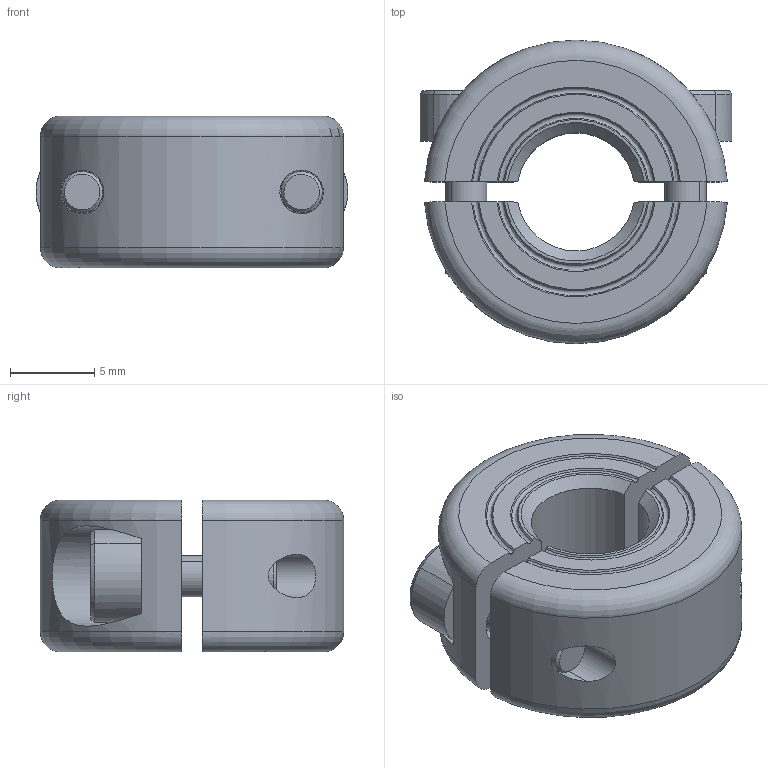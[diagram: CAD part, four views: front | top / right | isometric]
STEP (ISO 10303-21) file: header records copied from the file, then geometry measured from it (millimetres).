
FILE_DESCRIPTION((''),'2;1');
FILE_NAME('MSP-7-X','2016-09-08T',('SYSTEM'),(''),'PRO/ENGINEER BY PARAMETRIC TECHNOLOGY CORPORATION, 2015110','PRO/ENGINEER BY PARAMETRIC TECHNOLOGY CORPORATION, 2015110','');
FILE_SCHEMA(('AUTOMOTIVE_DESIGN { 1 0 10303 214 1 1 1 1 }'));
Length unit declared in the file: inch
Products named in the file (1): MSP-7-X
Bounding box: 18.49 x 18 x 9 mm (x, y, z)
Volume: 1723.8 mm3; surface area: 1649.5 mm2
Topology: 2 solids, 2 shells, 90 faces, 226 edges, 148 vertices
Faces by surface type: plane 36, cylinder 26, cone 20, torus 8
Entity records: 3663 total; most frequent: CARTESIAN_POINT 834, ORIENTED_EDGE 452, DIRECTION 430, EDGE_CURVE 226, AXIS2_PLACEMENT_3D 168, VERTEX_POINT 148, EDGE_LOOP 102, VECTOR 94
